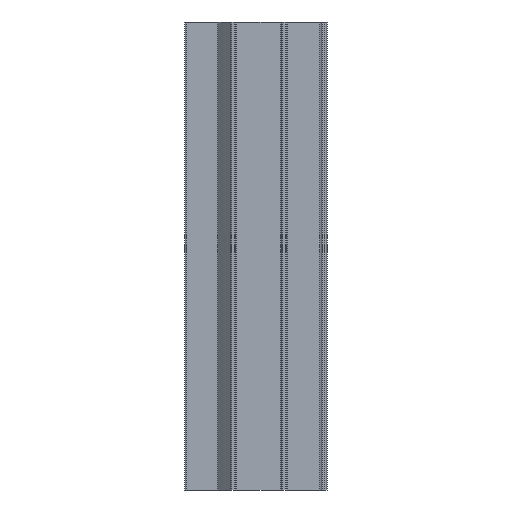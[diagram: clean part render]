
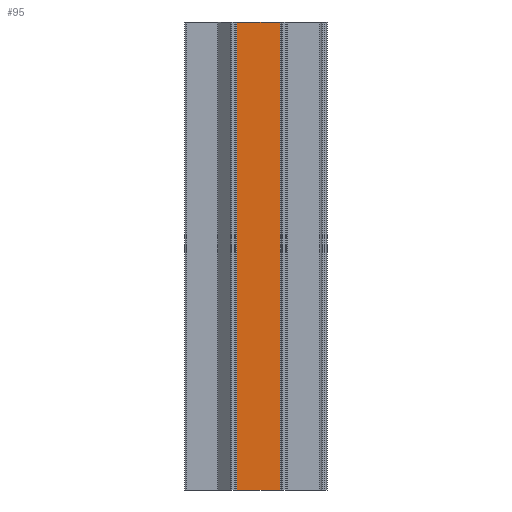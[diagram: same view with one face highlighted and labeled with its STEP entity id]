
A CAD part, front view. The second image highlights one B-rep face of the part: STEP entity #95.
In plain terms, the highlighted planar face has unit normal (0, -1, 0).
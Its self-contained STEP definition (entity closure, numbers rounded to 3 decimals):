
#95=ADVANCED_FACE('',(#149),#548,.T.);
#149=FACE_OUTER_BOUND('',#203,.F.);
#203=EDGE_LOOP('',(#476,#477,#478,#479));
#476=ORIENTED_EDGE('',*,*,#806,.T.);
#477=ORIENTED_EDGE('',*,*,#909,.F.);
#478=ORIENTED_EDGE('',*,*,#858,.F.);
#479=ORIENTED_EDGE('',*,*,#910,.T.);
#548=PLANE('',#1178);
#581=LINE('',#1658,#683);
#606=LINE('',#1710,#708);
#651=LINE('',#1761,#753);
#652=LINE('',#1762,#754);
#683=VECTOR('',#1254,9.352);
#708=VECTOR('',#1333,9.352);
#753=VECTOR('',#1390,100.);
#754=VECTOR('',#1391,100.);
#806=EDGE_CURVE('',#1040,#1041,#581,.T.);
#858=EDGE_CURVE('',#988,#989,#606,.T.);
#909=EDGE_CURVE('',#989,#1041,#651,.T.);
#910=EDGE_CURVE('',#988,#1040,#652,.T.);
#988=VERTEX_POINT('',#1526);
#989=VERTEX_POINT('',#1527);
#1040=VERTEX_POINT('',#1578);
#1041=VERTEX_POINT('',#1579);
#1178=AXIS2_PLACEMENT_3D('',#1816,#1486,#1487);
#1254=DIRECTION('',(1.,0.,0.));
#1333=DIRECTION('',(1.,0.,0.));
#1390=DIRECTION('',(0.,0.,1.));
#1391=DIRECTION('',(0.,0.,1.));
#1486=DIRECTION('',(0.,-1.,0.));
#1487=DIRECTION('',(1.,0.,0.));
#1526=CARTESIAN_POINT('',(237.869,419.198,555.884));
#1527=CARTESIAN_POINT('',(247.221,419.198,555.884));
#1578=CARTESIAN_POINT('',(237.869,419.198,655.884));
#1579=CARTESIAN_POINT('',(247.221,419.198,655.884));
#1658=CARTESIAN_POINT('',(237.869,419.198,655.884));
#1710=CARTESIAN_POINT('',(237.869,419.198,555.884));
#1761=CARTESIAN_POINT('',(247.221,419.198,555.884));
#1762=CARTESIAN_POINT('',(237.869,419.198,555.884));
#1816=CARTESIAN_POINT('',(236.869,419.198,554.884));
